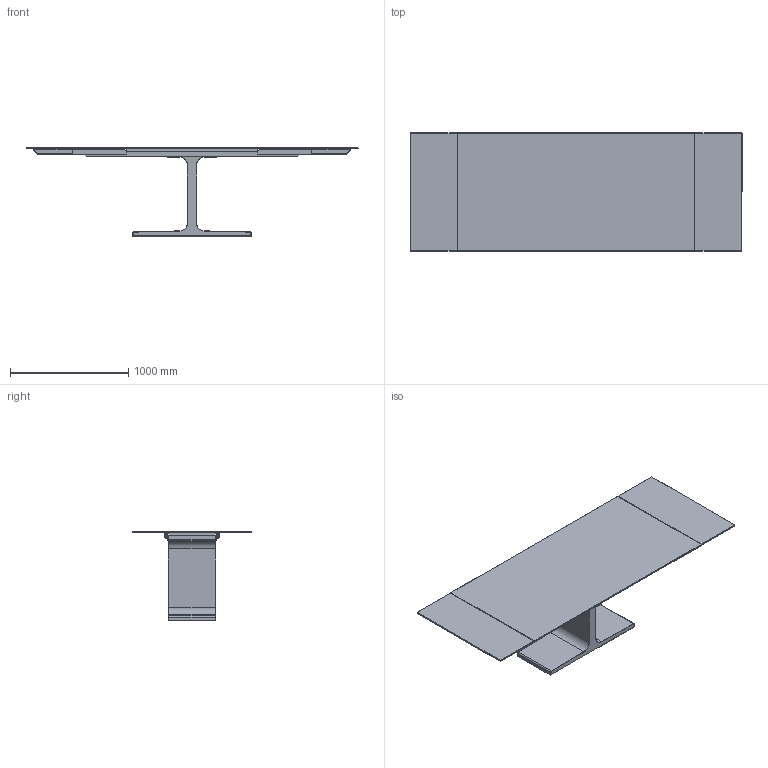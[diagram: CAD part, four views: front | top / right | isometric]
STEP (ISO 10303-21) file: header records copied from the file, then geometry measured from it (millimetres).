
FILE_DESCRIPTION((''),'2;1');
FILE_NAME('C:\AutodeskVault\AreaLavoro\Progetti\SoVeT Italia\1. Tavoli_Dining tables\Palace\Palace Extensible\Web file\Palace Extensible Web\P1575.stp','2012-04-27T18:04:25',('Gianluca'),('So.Ve.T. s.r.l.'),'Autodesk Inventor 2011','Autodesk Inventor 2011','IL PROGETTO E'' DI ESCLUSIVA PROPRIETA'' DELLA SO.VE.T. srl. E'' VIETATA OGNI RIPRODUZIONE TOTALE O PARZIALE EQUALSIASI UTILIZZO NON AUTORIZZATO.');
FILE_SCHEMA(('AUTOMOTIVE_DESIGN { 1 0 10303 214 1 1 1 1 }'));
Length unit declared in the file: millimetre
Products named in the file (1): P1575 Contorno semplificato
Bounding box: 2809.14 x 1000 x 761.17 mm (x, y, z)
Volume: 107372919.2 mm3; surface area: 8797228.2 mm2
Topology: 7 solids, 7 shells, 305 faces, 728 edges, 448 vertices
Faces by surface type: plane 169, cylinder 96, cone 24, torus 16
Entity records: 9111 total; most frequent: DIRECTION 1556, CARTESIAN_POINT 1522, ORIENTED_EDGE 1456, EDGE_CURVE 728, AXIS2_PLACEMENT_3D 530, VECTOR 496, LINE 496, VERTEX_POINT 448
